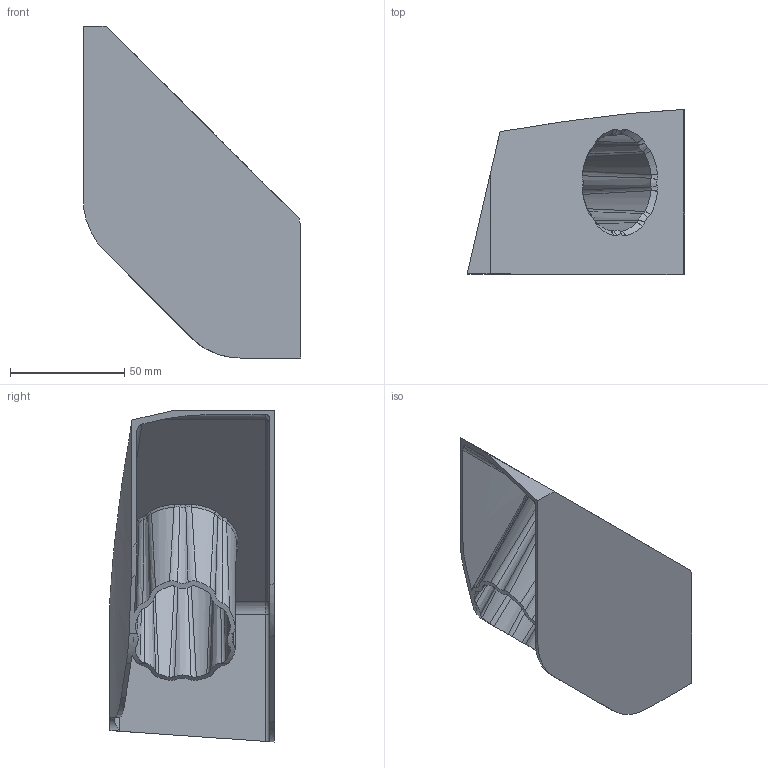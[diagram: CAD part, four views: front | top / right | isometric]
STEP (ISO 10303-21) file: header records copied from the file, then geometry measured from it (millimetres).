
FILE_DESCRIPTION(/* description */ (''),/* implementation_level */ '2;1');
FILE_NAME(/* name */ 'MY_J1772_Dock.step',/* time_stamp */ '2024-06-06T17:47:02-04:00',/* author */ (''),/* organization */ (''),/* preprocessor_version */ 'ST-DEVELOPER v20',/* originating_system */ 'Autodesk Translation Framework v13.14.0.145',/* authorisation */ '');
FILE_SCHEMA (('AUTOMOTIVE_DESIGN { 1 0 10303 214 3 1 1 }'));
Length unit declared in the file: millimetre
Products named in the file (1): Model Y J1772 Dock
Bounding box: 95 x 72 x 145 mm (x, y, z)
Volume: 66319.4 mm3; surface area: 66738.8 mm2
Topology: 1 solids, 1 shells, 227 faces, 647 edges, 419 vertices
Faces by surface type: bspline 133, cone 48, cylinder 28, plane 16, torus 2
Entity records: 10854 total; most frequent: CARTESIAN_POINT 6003, ORIENTED_EDGE 1294, EDGE_CURVE 647, DIRECTION 549, VERTEX_POINT 419, B_SPLINE_CURVE_WITH_KNOTS 397, EDGE_LOOP 230, FACE_OUTER_BOUND 227
